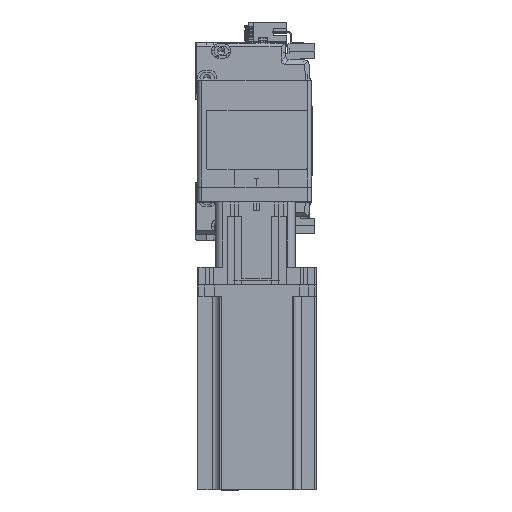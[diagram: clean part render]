
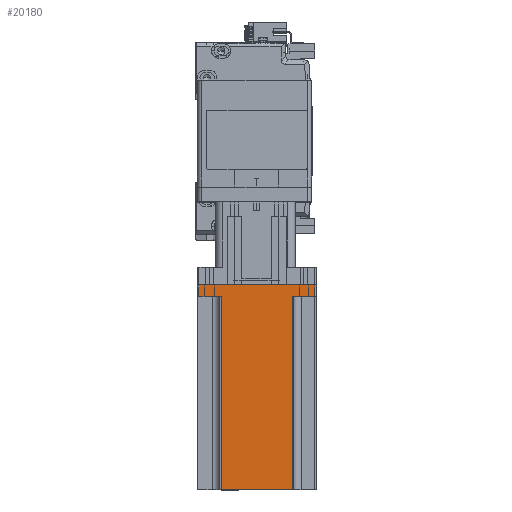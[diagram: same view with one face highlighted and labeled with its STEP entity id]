
A CAD part, top view. The second image highlights one B-rep face of the part: STEP entity #20180.
In plain terms, the highlighted planar face has unit normal (0, 0, 1) as drawn and (0, 1, 0) by its records, which use the part's own axes.
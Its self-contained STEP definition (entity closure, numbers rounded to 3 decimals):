
#95 = ORIENTED_EDGE ( 'NONE', *, *, #36687, .T. ) ;
#310 = EDGE_CURVE ( 'NONE', #52086, #49334, #58461, .T. ) ;
#546 = ORIENTED_EDGE ( 'NONE', *, *, #54093, .T. ) ;
#1488 = VECTOR ( 'NONE', #60263, 1000. ) ;
#1594 = LINE ( 'NONE', #50708, #35158 ) ;
#2002 = DIRECTION ( 'NONE',  ( 1., 0., 0. ) ) ;
#2701 = EDGE_CURVE ( 'NONE', #15440, #61585, #28402, .T. ) ;
#3246 = DIRECTION ( 'NONE',  ( -1., 0., 0. ) ) ;
#4503 = LINE ( 'NONE', #55478, #1488 ) ;
#4556 = ORIENTED_EDGE ( 'NONE', *, *, #26860, .F. ) ;
#6012 = ORIENTED_EDGE ( 'NONE', *, *, #2701, .T. ) ;
#6125 = CARTESIAN_POINT ( 'NONE',  ( -24., 40., 8. ) ) ;
#6488 = DIRECTION ( 'NONE',  ( 0., 0., 1. ) ) ;
#6518 = VECTOR ( 'NONE', #2002, 1000. ) ;
#6820 = CARTESIAN_POINT ( 'NONE',  ( -25., 40., 8. ) ) ;
#9447 = EDGE_LOOP ( 'NONE', ( #22944, #55542, #4556, #95, #24041, #6012, #546, #41819 ) ) ;
#11195 = CARTESIAN_POINT ( 'NONE',  ( 40., 40., 138.3 ) ) ;
#11358 = CARTESIAN_POINT ( 'NONE',  ( -24., 40., 138.3 ) ) ;
#13129 = VECTOR ( 'NONE', #56795, 1000. ) ;
#14046 = CARTESIAN_POINT ( 'NONE',  ( 25., 40., 8. ) ) ;
#14685 = CARTESIAN_POINT ( 'NONE',  ( -24., 40., 138.3 ) ) ;
#15440 = VERTEX_POINT ( 'NONE', #46214 ) ;
#16241 = VECTOR ( 'NONE', #6488, 1000. ) ;
#19354 = LINE ( 'NONE', #6820, #6518 ) ;
#20180 = ADVANCED_FACE ( 'NONE', ( #38183 ), #57630, .F. ) ;
#20612 = VECTOR ( 'NONE', #61114, 1000. ) ;
#21702 = EDGE_CURVE ( 'NONE', #40815, #52086, #19354, .T. ) ;
#22944 = ORIENTED_EDGE ( 'NONE', *, *, #21702, .T. ) ;
#24041 = ORIENTED_EDGE ( 'NONE', *, *, #34649, .F. ) ;
#24669 = CARTESIAN_POINT ( 'NONE',  ( 40., 40., 138.3 ) ) ;
#24753 = CARTESIAN_POINT ( 'NONE',  ( 39., 40., 0. ) ) ;
#25604 = DIRECTION ( 'NONE',  ( 0., 0., -1. ) ) ;
#25759 = CARTESIAN_POINT ( 'NONE',  ( -39., 40., 0. ) ) ;
#26443 = CARTESIAN_POINT ( 'NONE',  ( 24., 40., 8. ) ) ;
#26860 = EDGE_CURVE ( 'NONE', #35993, #49334, #39081, .T. ) ;
#27224 = CARTESIAN_POINT ( 'NONE',  ( 39., 40., 138.3 ) ) ;
#28402 = LINE ( 'NONE', #27224, #53609 ) ;
#29408 = DIRECTION ( 'NONE',  ( 1., 0., 0. ) ) ;
#33262 = VERTEX_POINT ( 'NONE', #26443 ) ;
#34649 = EDGE_CURVE ( 'NONE', #15440, #33262, #52474, .T. ) ;
#35158 = VECTOR ( 'NONE', #3246, 1000. ) ;
#35482 = VECTOR ( 'NONE', #53976, 1000. ) ;
#35993 = VERTEX_POINT ( 'NONE', #45545 ) ;
#36687 = EDGE_CURVE ( 'NONE', #35993, #33262, #4503, .T. ) ;
#38183 = FACE_OUTER_BOUND ( 'NONE', #9447, .T. ) ;
#39081 = LINE ( 'NONE', #11195, #35482 ) ;
#40815 = VERTEX_POINT ( 'NONE', #55226 ) ;
#41819 = ORIENTED_EDGE ( 'NONE', *, *, #46568, .T. ) ;
#45545 = CARTESIAN_POINT ( 'NONE',  ( 24., 40., 138.3 ) ) ;
#45829 = AXIS2_PLACEMENT_3D ( 'NONE', #24669, #57828, #29408 ) ;
#46214 = CARTESIAN_POINT ( 'NONE',  ( 39., 40., 8. ) ) ;
#46568 = EDGE_CURVE ( 'NONE', #46605, #40815, #54040, .T. ) ;
#46605 = VERTEX_POINT ( 'NONE', #25759 ) ;
#49334 = VERTEX_POINT ( 'NONE', #14685 ) ;
#50708 = CARTESIAN_POINT ( 'NONE',  ( 40., 40., 0. ) ) ;
#52086 = VERTEX_POINT ( 'NONE', #6125 ) ;
#52474 = LINE ( 'NONE', #14046, #13129 ) ;
#53609 = VECTOR ( 'NONE', #25604, 1000. ) ;
#53976 = DIRECTION ( 'NONE',  ( -1., 0., 0. ) ) ;
#54040 = LINE ( 'NONE', #58747, #16241 ) ;
#54093 = EDGE_CURVE ( 'NONE', #61585, #46605, #1594, .T. ) ;
#55226 = CARTESIAN_POINT ( 'NONE',  ( -39., 40., 8. ) ) ;
#55478 = CARTESIAN_POINT ( 'NONE',  ( 24., 40., 138.3 ) ) ;
#55542 = ORIENTED_EDGE ( 'NONE', *, *, #310, .T. ) ;
#56795 = DIRECTION ( 'NONE',  ( -1., 0., 0. ) ) ;
#57630 = PLANE ( 'NONE',  #45829 ) ;
#57828 = DIRECTION ( 'NONE',  ( 0., -1., 0. ) ) ;
#58461 = LINE ( 'NONE', #11358, #20612 ) ;
#58747 = CARTESIAN_POINT ( 'NONE',  ( -39., 40., 138.3 ) ) ;
#60263 = DIRECTION ( 'NONE',  ( 0., 0., -1. ) ) ;
#61114 = DIRECTION ( 'NONE',  ( 0., 0., 1. ) ) ;
#61585 = VERTEX_POINT ( 'NONE', #24753 ) ;
